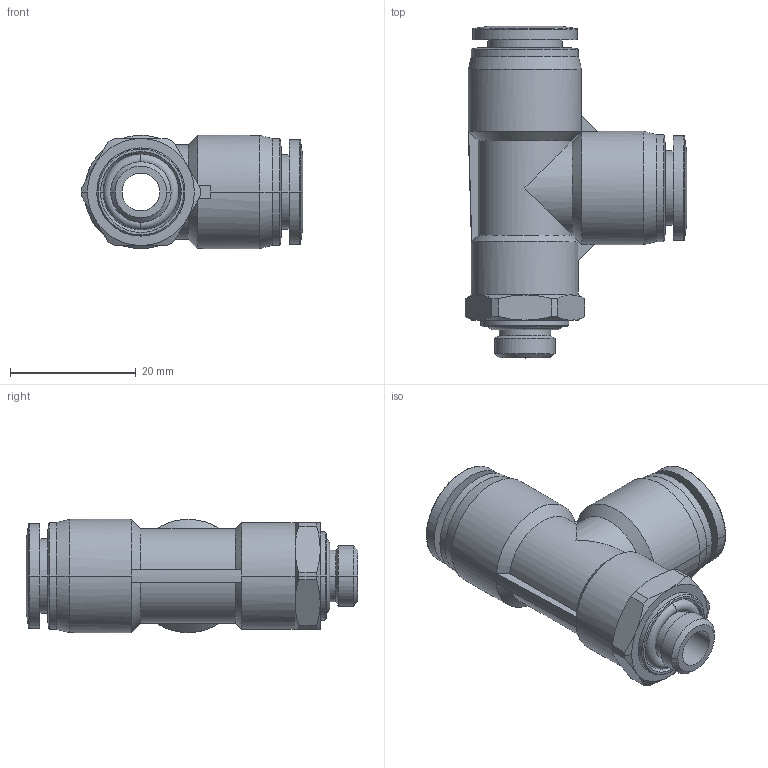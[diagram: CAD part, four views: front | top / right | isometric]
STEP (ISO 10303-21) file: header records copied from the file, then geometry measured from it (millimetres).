
FILE_DESCRIPTION (( 'STEP AP203' ), '1' );
FILE_NAME ('FLT10-01.STEP', '2020-05-12T14:17:39', ( '' ), ( '' ), 'SwSTEP 2.0', 'SolidWorks 2019', '' );
FILE_SCHEMA (( 'CONFIG_CONTROL_DESIGN' ));
Length unit declared in the file: millimetre
Products named in the file (1): FLT10-01
Bounding box: 35.25 x 52.75 x 17.98 mm (x, y, z)
Surface area: 6821.9 mm2 (no closed solid volume)
Topology: 0 solids, 4 shells, 126 faces, 311 edges, 196 vertices
Faces by surface type: cylinder 46, cone 40, plane 27, torus 8, bspline 5
Entity records: 6139 total; most frequent: CARTESIAN_POINT 3609, ORIENTED_EDGE 606, DIRECTION 319, EDGE_CURVE 311, B_SPLINE_CURVE_WITH_KNOTS 232, VERTEX_POINT 196, EDGE_LOOP 139, AXIS2_PLACEMENT_3D 130
